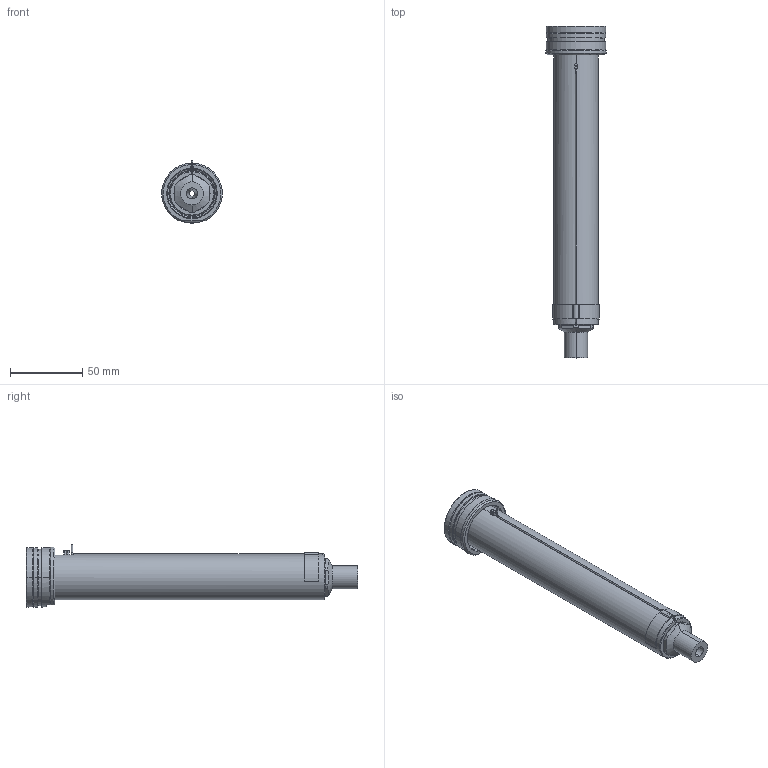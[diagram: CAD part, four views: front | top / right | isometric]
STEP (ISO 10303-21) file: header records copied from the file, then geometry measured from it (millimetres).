
FILE_DESCRIPTION((''),'2;1');
FILE_NAME('EO12_VG-ST_ESG_200_SW','2024-02-19T12:54:09',('sundharh'),(''),'CREO PARAMETRIC BY PTC INC, 2023154','CREO PARAMETRIC BY PTC INC, 2023154','');
FILE_SCHEMA(('CONFIG_CONTROL_DESIGN'));
Length unit declared in the file: millimetre
Products named in the file (1): EO12_VG-ST_ESG_200_SW
Bounding box: 41.85 x 230 x 43 mm (x, y, z)
Volume: 147098.5 mm3; surface area: 37402.7 mm2
Topology: 2 solids, 3 shells, 181 faces, 453 edges, 277 vertices
Faces by surface type: cylinder 65, plane 45, cone 37, torus 27, bspline 5, sphere 2
Entity records: 6204 total; most frequent: CARTESIAN_POINT 1769, DIRECTION 986, ORIENTED_EDGE 898, EDGE_CURVE 449, AXIS2_PLACEMENT_3D 412, VERTEX_POINT 277, CIRCLE 236, EDGE_LOOP 196
